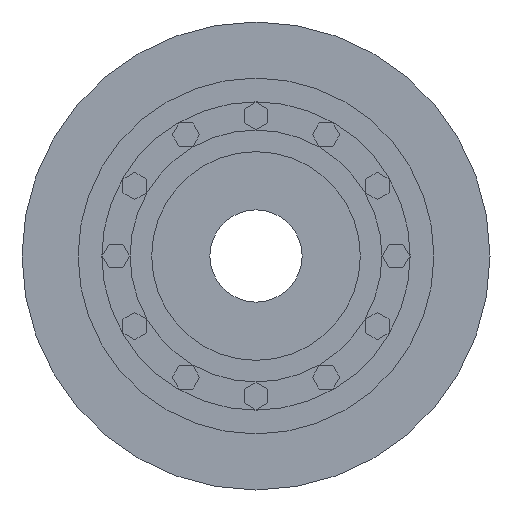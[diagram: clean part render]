
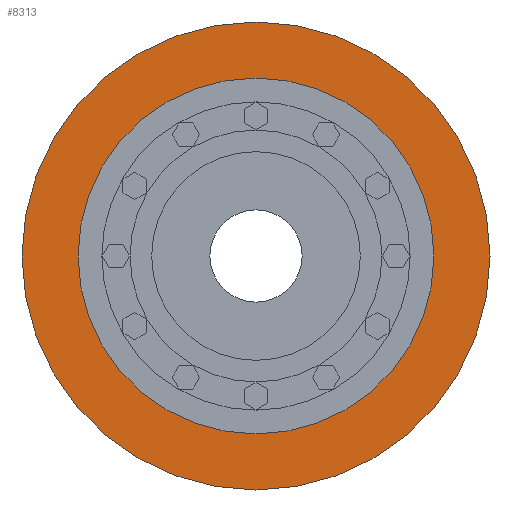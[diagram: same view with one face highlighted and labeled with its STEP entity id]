
A CAD part, left-side view. The second image highlights one B-rep face of the part: STEP entity #8313.
In plain terms, the highlighted planar face has unit normal (-1, 0, 0).
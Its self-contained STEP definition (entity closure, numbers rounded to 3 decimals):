
#8110=CARTESIAN_POINT('',(-42.5,0.,0.));
#8111=DIRECTION('',(-1.,0.,0.));
#8112=DIRECTION('',(0.,1.,0.));
#8113=AXIS2_PLACEMENT_3D('',#8110,#8111,#8112);
#8115=CARTESIAN_POINT('',(-42.5,0.,0.));
#8116=DIRECTION('',(1.,0.,0.));
#8117=DIRECTION('',(0.,1.,0.));
#8118=AXIS2_PLACEMENT_3D('',#8115,#8116,#8117);
#8120=CARTESIAN_POINT('',(-42.5,0.,0.));
#8121=DIRECTION('',(1.,0.,0.));
#8122=DIRECTION('',(0.,1.,0.));
#8123=AXIS2_PLACEMENT_3D('',#8120,#8121,#8122);
#8133=CARTESIAN_POINT('',(-42.5,0.,0.));
#8134=DIRECTION('',(-1.,0.,0.));
#8135=DIRECTION('',(0.,1.,0.));
#8136=AXIS2_PLACEMENT_3D('',#8133,#8134,#8135);
#8156=CARTESIAN_POINT('',(-42.5,308.8,0.));
#8158=VERTEX_POINT('',#8156);
#8168=CARTESIAN_POINT('',(-42.5,-308.8,0.));
#8170=VERTEX_POINT('',#8168);
#8173=CARTESIAN_POINT('',(-42.5,406.,0.));
#8175=VERTEX_POINT('',#8173);
#8177=CARTESIAN_POINT('',(-42.5,-406.,0.));
#8179=VERTEX_POINT('',#8177);
#8298=CARTESIAN_POINT('',(-42.5,0.,0.));
#8299=DIRECTION('',(1.,0.,0.));
#8300=DIRECTION('',(0.,-1.,0.));
#8301=AXIS2_PLACEMENT_3D('',#8298,#8299,#8300);
#8302=PLANE('',#8301);
#8303=ORIENTED_EDGE('',*,*,#8291,.F.);
#8304=ORIENTED_EDGE('',*,*,#8280,.T.);
#8305=EDGE_LOOP('',(#8303,#8304));
#8306=FACE_OUTER_BOUND('',#8305,.F.);
#8308=ORIENTED_EDGE('',*,*,#8307,.F.);
#8310=ORIENTED_EDGE('',*,*,#8309,.T.);
#8311=EDGE_LOOP('',(#8308,#8310));
#8312=FACE_BOUND('',#8311,.F.);
#8313=ADVANCED_FACE('',(#8306,#8312),#8302,.F.);
#8114=CIRCLE('',#8113,406.);
#8119=CIRCLE('',#8118,406.);
#8124=CIRCLE('',#8123,308.8);
#8137=CIRCLE('',#8136,308.8);
#8280=EDGE_CURVE('',#8175,#8179,#8119,.T.);
#8291=EDGE_CURVE('',#8175,#8179,#8114,.T.);
#8307=EDGE_CURVE('',#8158,#8170,#8124,.T.);
#8309=EDGE_CURVE('',#8158,#8170,#8137,.T.);
